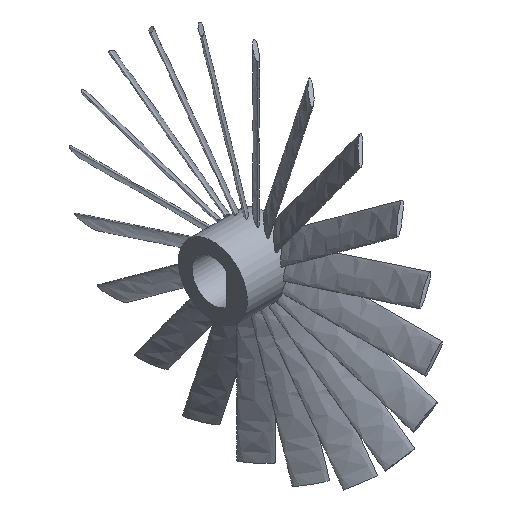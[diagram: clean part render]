
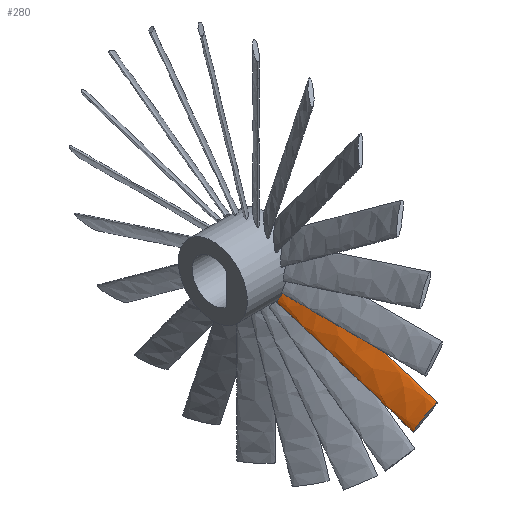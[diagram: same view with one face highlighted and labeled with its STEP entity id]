
A CAD part, isometric view. The second image highlights one B-rep face of the part: STEP entity #280.
In plain terms, the highlighted free-form (B-spline) face has degree [3, 1] with [7, 2] control points.
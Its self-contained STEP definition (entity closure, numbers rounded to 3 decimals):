
#280=ADVANCED_FACE('',(#616,#618),#620,.T.);
#616=FACE_OUTER_BOUND('',#617,.T.);
#617=EDGE_LOOP('',(#1061));
#618=FACE_OUTER_BOUND('',#619,.T.);
#619=EDGE_LOOP('',(#1062));
#620=(BOUNDED_SURFACE()B_SPLINE_SURFACE(3,1,(
(#621,#622),
(#623,#624),
(#625,#626),
(#627,#628),
(#629,#630),
(#631,#632),
(#633,#634)),
.UNSPECIFIED.,.T.,.F.,.F.)B_SPLINE_SURFACE_WITH_KNOTS((4,3,4),
(2,2),
(0.,3.142,6.283),
(0.,1.),
.UNSPECIFIED.)GEOMETRIC_REPRESENTATION_ITEM()RATIONAL_B_SPLINE_SURFACE((
(1.,1.),
(0.333,0.333),
(0.333,0.333),
(1.,1.),
(0.333,0.333),
(0.333,0.333),
(1.,1.)))REPRESENTATION_ITEM('')SURFACE());
#621=CARTESIAN_POINT('',(208.,-20.915,-0.352));
#622=CARTESIAN_POINT('',(208.,-99.853,-26.));
#623=CARTESIAN_POINT('',(206.138,-21.384,1.093));
#624=CARTESIAN_POINT('',(206.138,-100.322,-24.555));
#625=CARTESIAN_POINT('',(196.138,-17.597,-10.564));
#626=CARTESIAN_POINT('',(196.138,-96.535,-36.212));
#627=CARTESIAN_POINT('',(198.,-17.127,-12.009));
#628=CARTESIAN_POINT('',(198.,-96.065,-37.657));
#629=CARTESIAN_POINT('',(199.862,-16.658,-13.454));
#630=CARTESIAN_POINT('',(199.862,-95.596,-39.102));
#631=CARTESIAN_POINT('',(209.862,-20.445,-1.797));
#632=CARTESIAN_POINT('',(209.862,-99.383,-27.445));
#633=CARTESIAN_POINT('',(208.,-20.915,-0.352));
#634=CARTESIAN_POINT('',(208.,-99.853,-26.));
#1061=ORIENTED_EDGE('',*,*,#1139,.T.);
#1062=ORIENTED_EDGE('',*,*,#1140,.F.);
#1139=EDGE_CURVE('',#1205,#1205,#1206,.T.);
#1140=EDGE_CURVE('',#1207,#1207,#1208,.T.);
#1205=VERTEX_POINT('',#1407);
#1206=(BOUNDED_CURVE()B_SPLINE_CURVE(3,
(#1408,#1409,#1410,#1411,#1412,#1413,#1414),
.UNSPECIFIED.,.T.,.F.)B_SPLINE_CURVE_WITH_KNOTS((4,3,4),
(0.,0.5,1.),
.UNSPECIFIED.)CURVE()GEOMETRIC_REPRESENTATION_ITEM()RATIONAL_B_SPLINE_CURVE((1.,
0.333,0.333,1.,0.333,0.333,1.))
REPRESENTATION_ITEM(''));
#1207=VERTEX_POINT('',#1415);
#1208=(BOUNDED_CURVE()B_SPLINE_CURVE(3,
(#1416,#1417,#1418,#1419,#1420,#1421,#1422),
.UNSPECIFIED.,.T.,.F.)B_SPLINE_CURVE_WITH_KNOTS((4,3,4),
(0.,0.5,1.),
.UNSPECIFIED.)CURVE()GEOMETRIC_REPRESENTATION_ITEM()RATIONAL_B_SPLINE_CURVE((1.,
0.333,0.333,1.,0.333,0.333,1.))
REPRESENTATION_ITEM(''));
#1407=CARTESIAN_POINT('',(208.,-20.915,-0.352));
#1408=CARTESIAN_POINT('',(208.,-20.915,-0.352));
#1409=CARTESIAN_POINT('',(206.138,-21.384,1.093));
#1410=CARTESIAN_POINT('',(196.138,-17.597,-10.564));
#1411=CARTESIAN_POINT('',(198.,-17.127,-12.009));
#1412=CARTESIAN_POINT('',(199.862,-16.658,-13.454));
#1413=CARTESIAN_POINT('',(209.862,-20.445,-1.797));
#1414=CARTESIAN_POINT('',(208.,-20.915,-0.352));
#1415=CARTESIAN_POINT('',(208.,-99.853,-26.));
#1416=CARTESIAN_POINT('',(208.,-99.853,-26.));
#1417=CARTESIAN_POINT('',(206.138,-100.322,-24.555));
#1418=CARTESIAN_POINT('',(196.138,-96.535,-36.212));
#1419=CARTESIAN_POINT('',(198.,-96.065,-37.657));
#1420=CARTESIAN_POINT('',(199.862,-95.596,-39.102));
#1421=CARTESIAN_POINT('',(209.862,-99.383,-27.445));
#1422=CARTESIAN_POINT('',(208.,-99.853,-26.));
